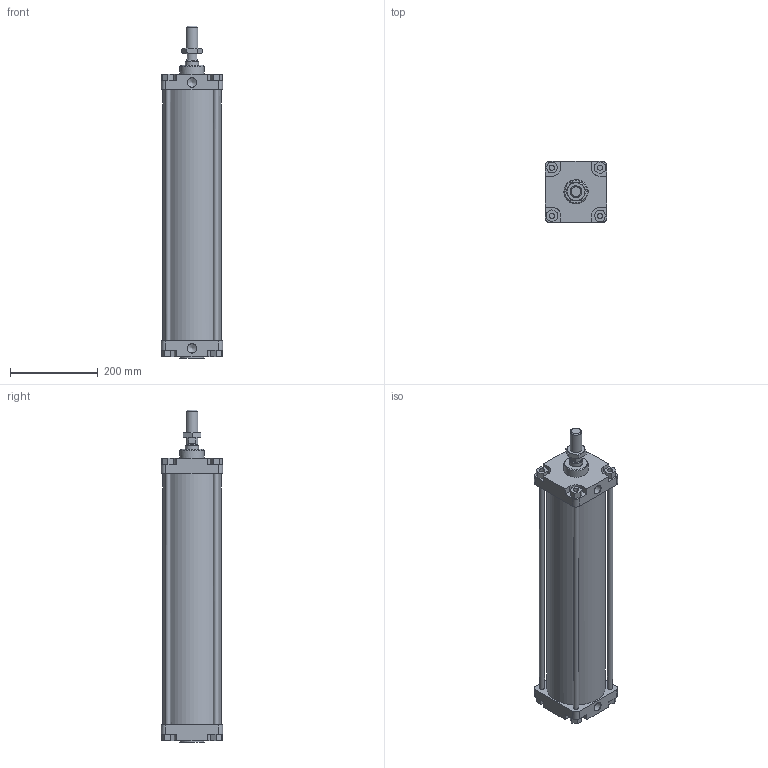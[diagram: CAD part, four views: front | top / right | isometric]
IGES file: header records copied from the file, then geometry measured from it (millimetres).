
Global section: file name: 1303_125_0500_01A; native system: Autodesk Inventor 2014; preprocessor: unknown; author: A. Manieri; date: 20161124.141613; units: millimetre
Bounding box: 140 x 140 x 758 mm (x, y, z)
Volume: 3844918.8 mm3; surface area: 818633.9 mm2
Topology: 9 solids, 9 shells, 175 faces, 440 edges, 295 vertices
Faces by surface type: bspline 175
